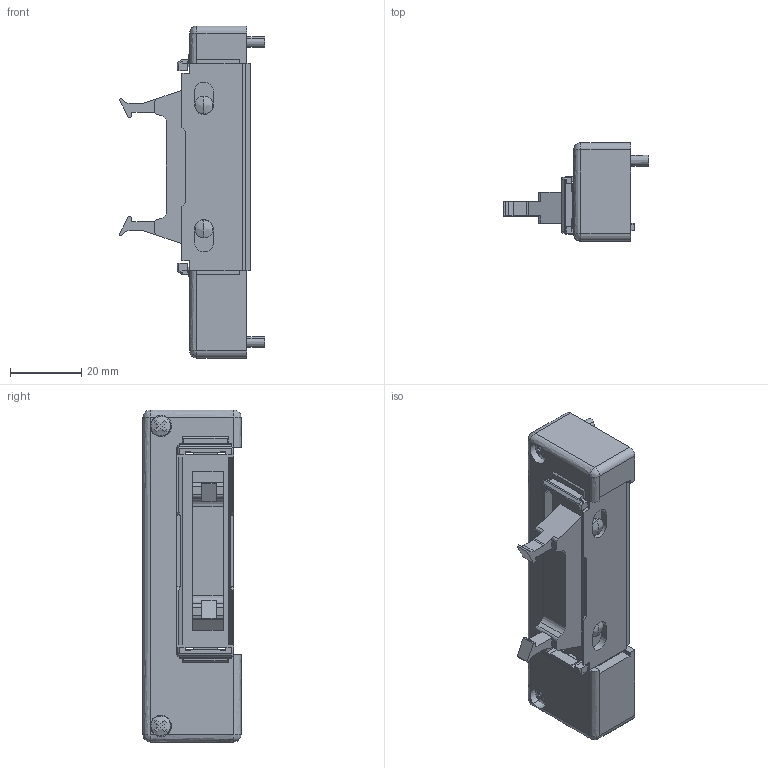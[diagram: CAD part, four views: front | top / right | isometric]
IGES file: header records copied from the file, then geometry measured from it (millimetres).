
Start section: ------------------------------------------------------------------------
Global section: file name: D:\ICADMX\tmp\trans3d_spg\CVICAD32.14756.FZX-F20xN-E_10100.igs; native system: spGate; preprocessor: ver12.6.6; author: Unknown; organization: Unknown; date: 200909.091718; units: millimetre
Bounding box: 40.7 x 27.5 x 93 mm (x, y, z)
Volume: 36224 mm3; surface area: 14522.7 mm2
Topology: 2 solids, 2 shells, 327 faces, 952 edges, 610 vertices
Faces by surface type: bspline 327
